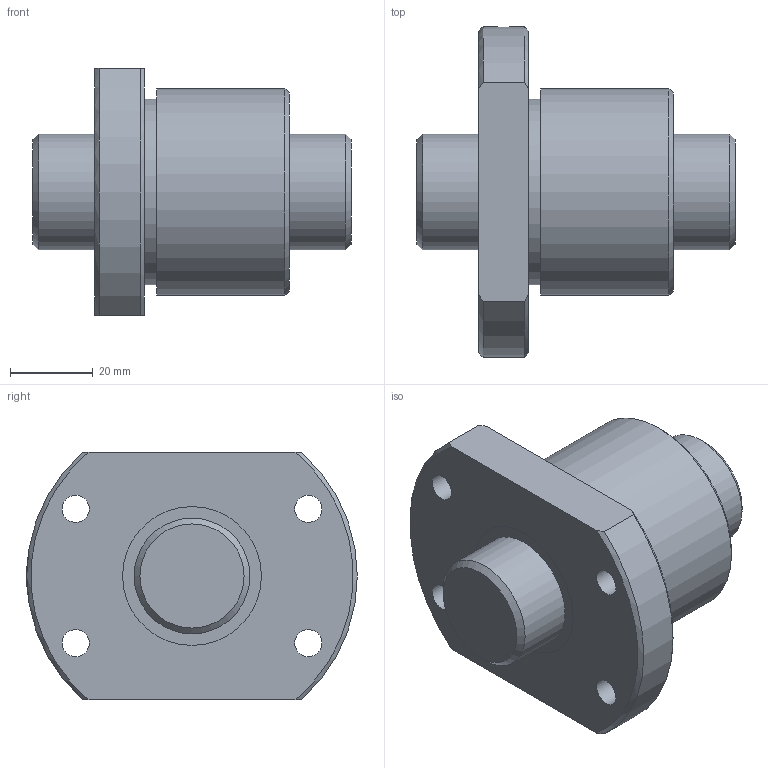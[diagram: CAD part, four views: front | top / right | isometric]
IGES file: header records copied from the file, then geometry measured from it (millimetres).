
Start section: Data from Parasolid IGES Translator 26.0.171, Copyright(c) 2006 Siemens PLM Software. All Rights Reserved.
Global section: file name: BTK2806V-2.6ZZ+77LC7T_000.igs; native system: By Siemens PLM Incorporated; preprocessor: XPlus GENERIC/IGES 26.0.171; author: Noname; organization: Noname; date: 20250116.075733; units: millimetre
Bounding box: 77 x 80 x 60 mm (x, y, z)
Surface area: 29281.5 mm2 (no closed solid volume)
Topology: 0 solids, 0 shells, 31 faces, 136 edges, 119 vertices
Faces by surface type: revolution 21, extrusion 10
